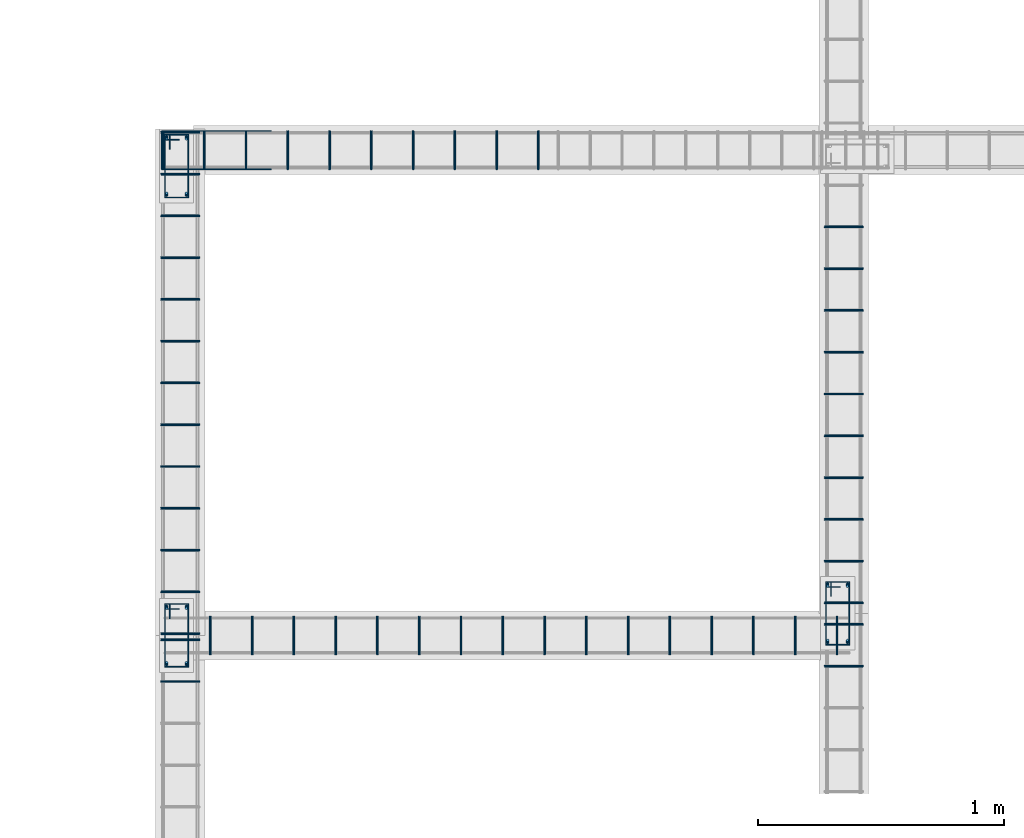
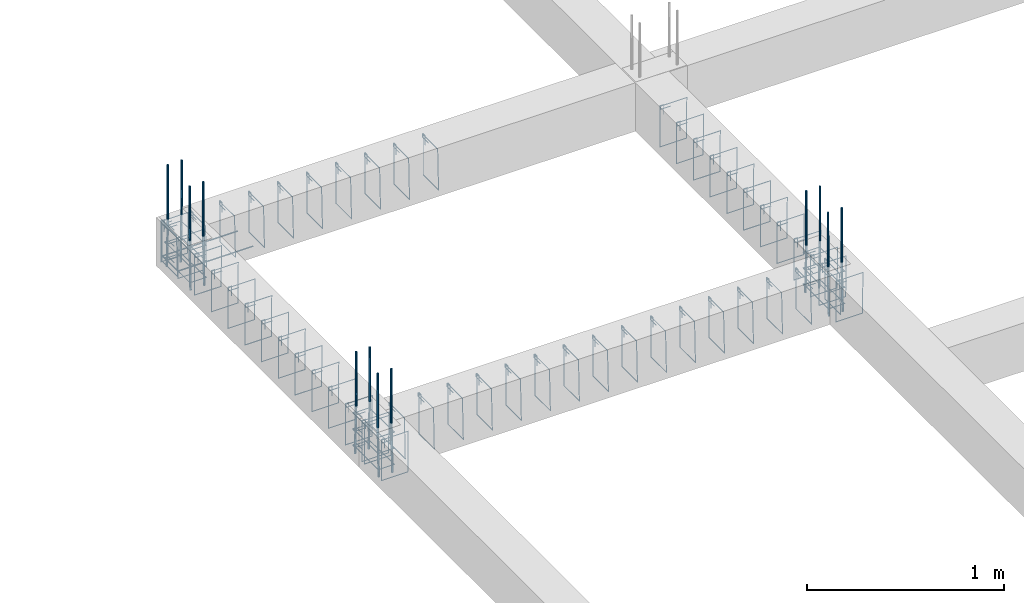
# One storey, part 48 of 150: 75 reinforcing bars.
"""IFC4 building model written with IfcOpenShell, lengths in centimetres."""

import ifcopenshell
import ifcopenshell.guid

model = None  # the IFC model being written
_history = None  # IfcOwnerHistory: only IFC2X3 demands one
_inside = {}  # id of a spatial element -> (the spatial element, [elements in it])
_under = {}  # id of a project, library or spatial element -> (it, [spatial elements below it])
_declared = {}  # id of a project -> (the project, [libraries it declares])
_typed = {}  # id of a type object -> (the type object, [elements of that type])
_made_of = {}  # id of a material, layer set ... -> (it, [elements and type objects made of it])


def new_model(schema):
    """Start an empty IFC model of exactly this schema.

    Asked for "IFC4X3", IfcOpenShell would pick the latest addendum, in which some entities
    have other attributes; the version numbers below select the first issue.
    IFC2X3 requires an IfcOwnerHistory on every rooted entity: one is made here for all.
    """
    global model, _history
    if schema == "IFC4X3":
        model = ifcopenshell.file(schema_version=(4, 3, 0, 0))
    else:
        model = ifcopenshell.file(schema=schema)
    _inside.clear()
    _under.clear()
    _declared.clear()
    _typed.clear()
    _made_of.clear()
    _history = None
    if model.schema == "IFC2X3":
        org = make("IfcOrganization", Name="unknown")
        user = make(
            "IfcPersonAndOrganization",
            ThePerson=make("IfcPerson", FamilyName="unknown"),
            TheOrganization=org,
        )
        app = make(
            "IfcApplication",
            ApplicationDeveloper=org,
            Version="unknown",
            ApplicationFullName="unknown",
            ApplicationIdentifier="unknown",
        )
        _history = make(
            "IfcOwnerHistory",
            OwningUser=user,
            OwningApplication=app,
            ChangeAction="ADDED",
            CreationDate=0,
        )
    return model


def make(cls, **values):
    """One entity of the class cls with the attributes given. An attribute that is None is left unset."""
    return model.create_entity(
        cls, **{name: value for name, value in values.items() if value is not None}
    )


def entity(cls, *values):
    """Any entity or typed value of the class cls, its attributes in the order of the schema. None: left unset."""
    e = model.create_entity(cls)
    for i, value in enumerate(values):
        if value is not None:
            e[i] = value
    return e


def rooted(cls, **values):
    """An entity with a GlobalId (a new one), such as an element, a storey or a relation."""
    return make(cls, GlobalId=ifcopenshell.guid.new(), OwnerHistory=_history, **values)


def si_unit(unit_type, name, prefix=None):
    """IfcSIUnit, for example si_unit("LENGTHUNIT", "METRE", prefix="MILLI")."""
    return make("IfcSIUnit", UnitType=unit_type, Prefix=prefix, Name=name)


def derived_unit(unit_type, elements):
    """IfcDerivedUnit: a product of units, each with its exponent."""
    return make(
        "IfcDerivedUnit",
        Elements=[
            make("IfcDerivedUnitElement", Unit=unit, Exponent=power)
            for unit, power in elements
        ],
        UnitType=unit_type,
    )


def assignment(units):
    """IfcUnitAssignment: the units of a project."""
    return None if units is None else make("IfcUnitAssignment", Units=units)


def point(xyz):
    """IfcCartesianPoint."""
    return None if xyz is None else make("IfcCartesianPoint", Coordinates=xyz)


def direction(xyz):
    """IfcDirection."""
    return None if xyz is None else make("IfcDirection", DirectionRatios=xyz)


def frame(location, z_axis=None, x_axis=None):
    """IfcAxis2Placement3D, a coordinate frame: its origin and axes. An axis left out is left unset."""
    return make(
        "IfcAxis2Placement3D",
        Location=point(location),
        Axis=direction(z_axis),
        RefDirection=direction(x_axis),
    )


def origin_with_axes():
    """The frame at (0, 0, 0) with the z axis (0, 0, 1) and the x axis (1, 0, 0) written out."""
    return frame((0.0, 0.0, 0.0), z_axis=(0.0, 0.0, 1.0), x_axis=(1.0, 0.0, 0.0))


def place(relative_to, where):
    """IfcLocalPlacement: puts the frame where relative to a parent placement (None: the world)."""
    return make(
        "IfcLocalPlacement", PlacementRelTo=relative_to, RelativePlacement=where
    )


def context(
    kind, dimensions, precision=None, world=None, true_north=None, identifier=None
):
    """IfcGeometricRepresentationContext, for example the 3D "Model" context."""
    return make(
        "IfcGeometricRepresentationContext",
        ContextIdentifier=identifier,
        ContextType=kind,
        CoordinateSpaceDimension=dimensions,
        Precision=precision,
        WorldCoordinateSystem=world,
        TrueNorth=true_north,
    )


def project(units=None, contexts=None):
    """IfcProject with its units and contexts."""
    return rooted(
        "IfcProject",
        Name="project",
        RepresentationContexts=contexts,
        UnitsInContext=assignment(units),
    )


def spatial(cls, under=None, at=None, **own):
    """A site, building, storey or space (cls), placed at a placement, below another one or the project."""
    s = rooted(cls, ObjectPlacement=at, **own)
    if under is not None:
        _under.setdefault(under.id(), (under, []))[1].append(s)
    return s


def shape(context_of_items, identifier, shape_type, items):
    """IfcShapeRepresentation: the items that make up one representation, for example the "Body"."""
    return make(
        "IfcShapeRepresentation",
        ContextOfItems=context_of_items,
        RepresentationIdentifier=identifier,
        RepresentationType=shape_type,
        Items=items,
    )


def source(mapping_origin, context_of_items, identifier, shape_type, items):
    """IfcRepresentationMap: a shape defined once, which mapped items show again and again."""
    return make(
        "IfcRepresentationMap",
        MappingOrigin=mapping_origin,
        MappedRepresentation=shape(context_of_items, identifier, shape_type, items),
    )


def transform(
    local_origin,
    x_axis=None,
    y_axis=None,
    z_axis=None,
    scale=None,
    scale2=None,
    scale3=None,
    uniform=True,
):
    """IfcCartesianTransformationOperator3D, or its non-uniform kind. x_axis, y_axis, z_axis: its Axis1, 2, 3."""
    if uniform:
        return make(
            "IfcCartesianTransformationOperator3D",
            Axis1=direction(x_axis),
            Axis2=direction(y_axis),
            LocalOrigin=point(local_origin),
            Scale=scale,
            Axis3=direction(z_axis),
        )
    return make(
        "IfcCartesianTransformationOperator3DnonUniform",
        Axis1=direction(x_axis),
        Axis2=direction(y_axis),
        LocalOrigin=point(local_origin),
        Scale=scale,
        Axis3=direction(z_axis),
        Scale2=scale2,
        Scale3=scale3,
    )


def mapped(mapping_source, mapping_target):
    """IfcMappedItem: shows the shape of a source again, moved by a transform."""
    return make(
        "IfcMappedItem", MappingSource=mapping_source, MappingTarget=mapping_target
    )


def made_of(thing, what):
    """Note that an element or type object is made of a material, layer set ...; save() writes the relation."""
    if what is not None:
        _made_of.setdefault(what.id(), (what, []))[1].append(thing)
    return thing


def element(
    cls,
    number,
    at=None,
    inside=None,
    cuts=None,
    type_object=None,
    material=None,
    context=None,
    identifier="Body",
    shape_type=None,
    held_by="IfcProductDefinitionShape",
    body=None,
    shapes=None,
    **own,
):
    """One element of the class cls, such as IfcWall. Its Tag is "e" and its number.

    at: its placement. inside: the storey or other place that contains it. cuts: it is an
    opening in that element (IfcRelVoidsElement). A single representation is given by context,
    identifier, shape_type and body (its items); several are given by shapes. held_by: the class
    of the entity that holds the representations. save() writes the other relations.
    """
    e = rooted(cls, Tag="e%d" % number, ObjectPlacement=at, **own)
    if body is not None:
        shapes = [shape(context, identifier, shape_type, body)]
    if shapes is not None:
        e.Representation = make(held_by, Representations=shapes)
    if inside is not None:
        _inside.setdefault(inside.id(), (inside, []))[1].append(e)
    if cuts is not None:
        rooted(
            "IfcRelVoidsElement", RelatingBuildingElement=cuts, RelatedOpeningElement=e
        )
    if type_object is not None:
        _typed.setdefault(type_object.id(), (type_object, []))[1].append(e)
    return made_of(e, material)


def aggregate(whole, parts):
    """IfcRelAggregates: a whole, such as a stair, and the parts it consists of."""
    return rooted("IfcRelAggregates", RelatingObject=whole, RelatedObjects=parts)


def save(model, path):
    """Write the relations noted so far, then the file.

    IfcRelAggregates (storeys below a building ...), IfcRelContainedInSpatialStructure (elements
    in a storey), IfcRelDefinesByType, IfcRelAssociatesMaterial and IfcRelDeclares: one each for
    every whole, place, type object, material and project.
    """
    for whole, parts in _under.values():
        aggregate(whole, parts)
    for where, things in _inside.values():
        rooted(
            "IfcRelContainedInSpatialStructure",
            RelatedElements=things,
            RelatingStructure=where,
        )
    for kind, things in _typed.values():
        rooted("IfcRelDefinesByType", RelatedObjects=things, RelatingType=kind)
    for what, things in _made_of.values():
        rooted("IfcRelAssociatesMaterial", RelatedObjects=things, RelatingMaterial=what)
    for by, libraries in _declared.values():
        rooted("IfcRelDeclares", RelatingContext=by, RelatedDefinitions=libraries)
    model.write(path)


model = new_model("IFC4")

# Units and contexts
model_context = context("Model", 3, precision=1e-05, world=origin_with_axes(), identifier="Body")
ifc_project = project(units=[si_unit("LENGTHUNIT", "METRE", prefix="CENTI"), si_unit("VOLUMEUNIT", "CUBIC_METRE"), si_unit("AREAUNIT", "SQUARE_METRE"), si_unit("POWERUNIT", "WATT"), si_unit("LUMINOUSFLUXUNIT", "LUMEN"), si_unit("ELECTRICCURRENTUNIT", "AMPERE"), si_unit("PRESSUREUNIT", "PASCAL", prefix="KILO"), si_unit("MASSUNIT", "GRAM", prefix="KILO"), si_unit("PLANEANGLEUNIT", "RADIAN"), derived_unit("VOLUMETRICFLOWRATEUNIT", [(si_unit("LENGTHUNIT", "METRE"), 3), (si_unit("TIMEUNIT", "SECOND"), -1)])], contexts=[model_context])

# Site, building, storey
site_placement = place(None, frame((-4000.0, 0.0, 0.0), z_axis=(0.0, 0.0, 1.0), x_axis=(1.0, 0.0, 0.0)))
site = spatial("IfcSite", under=ifc_project, at=site_placement, Name="PADRÃO")
building_placement = place(site_placement, frame((0.0, 0.0, -14.0)))
building = spatial("IfcBuilding", under=site, at=building_placement, Name="CRECHE PRÉ-ESCOLA TIPO 2")
placement = place(building_placement, origin_with_axes())
storey_placement = place(placement, frame((0.0, 0.0, 30.0), z_axis=(0.0, 0.0, 1.0), x_axis=(1.0, 0.0, 0.0)))
storey = spatial("IfcBuildingStorey", under=building, at=storey_placement, Name="VIGA BALDRAME", CompositionType="ELEMENT", Elevation=16.0)

# Reinforcing bars
shared_shape_1 = source(origin_with_axes(), model_context, "Body", "AdvancedSweptSolid", [
    entity("IfcSweptDiskSolid", entity("IfcCompositeCurve", [entity("IfcCompositeCurveSegment", "CONTINUOUS", True, entity("IfcPolyline", [entity("IfcCartesianPoint", [4.25, 21.75, 0.0]), entity("IfcCartesianPoint", [4.25, 27.75, 0.0])])), entity("IfcCompositeCurveSegment", "CONTINUOUS", True, entity("IfcPolyline", [entity("IfcCartesianPoint", [4.25, 27.75, 0.0]), entity("IfcCartesianPoint", [2.25, 27.75, 0.0])])), entity("IfcCompositeCurveSegment", "CONTINUOUS", True, entity("IfcPolyline", [entity("IfcCartesianPoint", [2.25, 27.75, 0.0]), entity("IfcCartesianPoint", [2.25, 2.25, 0.0])])), entity("IfcCompositeCurveSegment", "CONTINUOUS", True, entity("IfcPolyline", [entity("IfcCartesianPoint", [2.25, 2.25, 0.0]), entity("IfcCartesianPoint", [11.75, 2.25, 0.0])])), entity("IfcCompositeCurveSegment", "CONTINUOUS", True, entity("IfcPolyline", [entity("IfcCartesianPoint", [11.75, 2.25, 0.0]), entity("IfcCartesianPoint", [11.75, 27.75, -0.5])])), entity("IfcCompositeCurveSegment", "CONTINUOUS", True, entity("IfcPolyline", [entity("IfcCartesianPoint", [11.75, 27.75, -0.5]), entity("IfcCartesianPoint", [2.25, 27.75, -0.5])])), entity("IfcCompositeCurveSegment", "CONTINUOUS", True, entity("IfcPolyline", [entity("IfcCartesianPoint", [2.25, 27.75, -0.5]), entity("IfcCartesianPoint", [2.25, 25.75, -0.5])])), entity("IfcCompositeCurveSegment", "CONTINUOUS", True, entity("IfcPolyline", [entity("IfcCartesianPoint", [2.25, 25.75, -0.5]), entity("IfcCartesianPoint", [8.25, 25.75, -0.5])]))], False), 0.25),
])
for number, where, z_axis, x_axis, name in (
    (1, (2247.49, 1008.51, -15.0), (0.0, 0.0, 1.0), (1.0, 0.0, 0.0), "P121 - Estribo"),
    (2, (2247.49, 1008.51, -5.0), (0.0, 0.0, 1.0), (1.0, 0.0, 0.0), "P121 - Estribo"),
    (3, (2247.49, 1008.51, -25.0), (0.0, 0.0, 1.0), (1.0, 0.0, 0.0), "P121 - Estribo"),
):
    element("IfcReinforcingBar", number, at=place(storey_placement, frame(where, z_axis=z_axis, x_axis=x_axis)), inside=storey, Name=name, BarLength=0.0, CrossSectionArea=1.9634954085e-05, NominalDiameter=0.5, PredefinedType="MAIN", context=model_context, shape_type="MappedRepresentation", body=[
        mapped(shared_shape_1, transform((0.0, 0.0, 0.0), scale=1.0)),
    ])
shared_shape_2 = source(origin_with_axes(), model_context, "Body", "AdvancedSweptSolid", [
    entity("IfcSweptDiskSolid", entity("IfcCompositeCurve", [entity("IfcCompositeCurveSegment", "CONTINUOUS", True, entity("IfcPolyline", [entity("IfcCartesianPoint", [4.25, 21.75, 0.0]), entity("IfcCartesianPoint", [4.25, 27.75, 0.0])])), entity("IfcCompositeCurveSegment", "CONTINUOUS", True, entity("IfcPolyline", [entity("IfcCartesianPoint", [4.25, 27.75, 0.0]), entity("IfcCartesianPoint", [2.25, 27.75, 0.0])])), entity("IfcCompositeCurveSegment", "CONTINUOUS", True, entity("IfcPolyline", [entity("IfcCartesianPoint", [2.25, 27.75, 0.0]), entity("IfcCartesianPoint", [2.25, 2.25, 0.0])])), entity("IfcCompositeCurveSegment", "CONTINUOUS", True, entity("IfcPolyline", [entity("IfcCartesianPoint", [2.25, 2.25, 0.0]), entity("IfcCartesianPoint", [11.75, 2.25, 0.0])])), entity("IfcCompositeCurveSegment", "CONTINUOUS", True, entity("IfcPolyline", [entity("IfcCartesianPoint", [11.75, 2.25, 0.0]), entity("IfcCartesianPoint", [11.75, 27.75, -0.5])])), entity("IfcCompositeCurveSegment", "CONTINUOUS", True, entity("IfcPolyline", [entity("IfcCartesianPoint", [11.75, 27.75, -0.5]), entity("IfcCartesianPoint", [2.25, 27.75, -0.5])])), entity("IfcCompositeCurveSegment", "CONTINUOUS", True, entity("IfcPolyline", [entity("IfcCartesianPoint", [2.25, 27.75, -0.5]), entity("IfcCartesianPoint", [2.25, 25.75, -0.5])])), entity("IfcCompositeCurveSegment", "CONTINUOUS", True, entity("IfcPolyline", [entity("IfcCartesianPoint", [2.25, 25.75, -0.5]), entity("IfcCartesianPoint", [8.25, 25.75, -0.5])]))], False), 0.25),
])
for number, where, z_axis, x_axis, name in (
    (4, (2516.5, 826.52, -5.0), (0.0, 0.0, 1.0), (1.0, 0.0, 0.0), "P129 - Estribo"),
    (5, (2516.5, 826.52, -15.0), (0.0, 0.0, 1.0), (1.0, 0.0, 0.0), "P129 - Estribo"),
    (6, (2516.5, 826.52, -25.0), (0.0, 0.0, 1.0), (1.0, 0.0, 0.0), "P129 - Estribo"),
):
    element("IfcReinforcingBar", number, at=place(storey_placement, frame(where, z_axis=z_axis, x_axis=x_axis)), inside=storey, Name=name, BarLength=0.0, CrossSectionArea=1.9634954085e-05, NominalDiameter=0.5, PredefinedType="MAIN", context=model_context, shape_type="MappedRepresentation", body=[
        mapped(shared_shape_2, transform((0.0, 0.0, 0.0), scale=1.0)),
    ])
shared_shape_3 = source(origin_with_axes(), model_context, "Body", "AdvancedSweptSolid", [
    entity("IfcSweptDiskSolid", entity("IfcCompositeCurve", [entity("IfcCompositeCurveSegment", "CONTINUOUS", True, entity("IfcPolyline", [entity("IfcCartesianPoint", [4.25, 21.75, 0.0]), entity("IfcCartesianPoint", [4.25, 27.75, 0.0])])), entity("IfcCompositeCurveSegment", "CONTINUOUS", True, entity("IfcPolyline", [entity("IfcCartesianPoint", [4.25, 27.75, 0.0]), entity("IfcCartesianPoint", [2.25, 27.75, 0.0])])), entity("IfcCompositeCurveSegment", "CONTINUOUS", True, entity("IfcPolyline", [entity("IfcCartesianPoint", [2.25, 27.75, 0.0]), entity("IfcCartesianPoint", [2.25, 2.25, 0.0])])), entity("IfcCompositeCurveSegment", "CONTINUOUS", True, entity("IfcPolyline", [entity("IfcCartesianPoint", [2.25, 2.25, 0.0]), entity("IfcCartesianPoint", [11.75, 2.25, 0.0])])), entity("IfcCompositeCurveSegment", "CONTINUOUS", True, entity("IfcPolyline", [entity("IfcCartesianPoint", [11.75, 2.25, 0.0]), entity("IfcCartesianPoint", [11.75, 27.75, -0.5])])), entity("IfcCompositeCurveSegment", "CONTINUOUS", True, entity("IfcPolyline", [entity("IfcCartesianPoint", [11.75, 27.75, -0.5]), entity("IfcCartesianPoint", [2.25, 27.75, -0.5])])), entity("IfcCompositeCurveSegment", "CONTINUOUS", True, entity("IfcPolyline", [entity("IfcCartesianPoint", [2.25, 27.75, -0.5]), entity("IfcCartesianPoint", [2.25, 25.75, -0.5])])), entity("IfcCompositeCurveSegment", "CONTINUOUS", True, entity("IfcPolyline", [entity("IfcCartesianPoint", [2.25, 25.75, -0.5]), entity("IfcCartesianPoint", [8.25, 25.75, -0.5])]))], False), 0.25),
])
for number, where, z_axis, x_axis, name in (
    (7, (2247.49, 817.52, -5.0), (0.0, 0.0, 1.0), (1.0, 0.0, 0.0), "P128 - Estribo"),
    (8, (2247.49, 817.52, -15.0), (0.0, 0.0, 1.0), (1.0, 0.0, 0.0), "P128 - Estribo"),
    (9, (2247.49, 817.52, -25.0), (0.0, 0.0, 1.0), (1.0, 0.0, 0.0), "P128 - Estribo"),
):
    element("IfcReinforcingBar", number, at=place(storey_placement, frame(where, z_axis=z_axis, x_axis=x_axis)), inside=storey, Name=name, BarLength=0.0, CrossSectionArea=1.9634954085e-05, NominalDiameter=0.5, PredefinedType="MAIN", context=model_context, shape_type="MappedRepresentation", body=[
        mapped(shared_shape_3, transform((0.0, 0.0, 0.0), scale=1.0)),
    ])
shared_shape_4 = source(origin_with_axes(), model_context, "Body", "AdvancedSweptSolid", [
    entity("IfcSweptDiskSolid", entity("IfcCompositeCurve", [entity("IfcCompositeCurveSegment", "CONTINUOUS", True, entity("IfcPolyline", [entity("IfcCartesianPoint", [2.0, -6.0, 0.0]), entity("IfcCartesianPoint", [2.0, 0.0, 0.0])])), entity("IfcCompositeCurveSegment", "CONTINUOUS", True, entity("IfcPolyline", [entity("IfcCartesianPoint", [2.0, 0.0, 0.0]), entity("IfcCartesianPoint", [0.0, 0.0, 0.0])])), entity("IfcCompositeCurveSegment", "CONTINUOUS", True, entity("IfcPolyline", [entity("IfcCartesianPoint", [0.0, 0.0, 0.0]), entity("IfcCartesianPoint", [0.0, -25.5, 0.0])])), entity("IfcCompositeCurveSegment", "CONTINUOUS", True, entity("IfcPolyline", [entity("IfcCartesianPoint", [0.0, -25.5, 0.0]), entity("IfcCartesianPoint", [15.5, -25.5, 0.0])])), entity("IfcCompositeCurveSegment", "CONTINUOUS", True, entity("IfcPolyline", [entity("IfcCartesianPoint", [15.5, -25.5, 0.0]), entity("IfcCartesianPoint", [15.5, 0.0, 0.5])])), entity("IfcCompositeCurveSegment", "CONTINUOUS", True, entity("IfcPolyline", [entity("IfcCartesianPoint", [15.5, 0.0, 0.5]), entity("IfcCartesianPoint", [0.0, 0.0, 0.5])])), entity("IfcCompositeCurveSegment", "CONTINUOUS", True, entity("IfcPolyline", [entity("IfcCartesianPoint", [0.0, 0.0, 0.5]), entity("IfcCartesianPoint", [0.0, -2.0, 0.5])])), entity("IfcCompositeCurveSegment", "CONTINUOUS", True, entity("IfcPolyline", [entity("IfcCartesianPoint", [0.0, -2.0, 0.5]), entity("IfcCartesianPoint", [6.0, -2.0, 0.5])]))], False), 0.25),
])
for number, where, z_axis, x_axis, name in (
    (10, (2518.25, 820.27, -2.25), (0.0, -1.0, 0.0), (1.0, 0.0, 0.0), "V196 - Estribo"),
    (11, (2518.25, 837.27, -2.25), (0.0, -1.0, 0.0), (1.0, 0.0, 0.0), "V196 - Estribo"),
):
    element("IfcReinforcingBar", number, at=place(storey_placement, frame(where, z_axis=z_axis, x_axis=x_axis)), inside=storey, Name=name, BarLength=0.0, CrossSectionArea=1.9634954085e-05, NominalDiameter=0.5, PredefinedType="MAIN", context=model_context, shape_type="MappedRepresentation", body=[
        mapped(shared_shape_4, transform((0.0, 0.0, 0.0), scale=1.0)),
    ])
shared_shape_5 = source(origin_with_axes(), model_context, "Body", "AdvancedSweptSolid", [
    entity("IfcSweptDiskSolid", entity("IfcCompositeCurve", [entity("IfcCompositeCurveSegment", "CONTINUOUS", True, entity("IfcPolyline", [entity("IfcCartesianPoint", [2.0, -6.0, 0.0]), entity("IfcCartesianPoint", [2.0, 0.0, 0.0])])), entity("IfcCompositeCurveSegment", "CONTINUOUS", True, entity("IfcPolyline", [entity("IfcCartesianPoint", [2.0, 0.0, 0.0]), entity("IfcCartesianPoint", [0.0, 0.0, 0.0])])), entity("IfcCompositeCurveSegment", "CONTINUOUS", True, entity("IfcPolyline", [entity("IfcCartesianPoint", [0.0, 0.0, 0.0]), entity("IfcCartesianPoint", [0.0, -25.5, 0.0])])), entity("IfcCompositeCurveSegment", "CONTINUOUS", True, entity("IfcPolyline", [entity("IfcCartesianPoint", [0.0, -25.5, 0.0]), entity("IfcCartesianPoint", [15.5, -25.5, 0.0])])), entity("IfcCompositeCurveSegment", "CONTINUOUS", True, entity("IfcPolyline", [entity("IfcCartesianPoint", [15.5, -25.5, 0.0]), entity("IfcCartesianPoint", [15.5, 0.0, 0.5])])), entity("IfcCompositeCurveSegment", "CONTINUOUS", True, entity("IfcPolyline", [entity("IfcCartesianPoint", [15.5, 0.0, 0.5]), entity("IfcCartesianPoint", [0.0, 0.0, 0.5])])), entity("IfcCompositeCurveSegment", "CONTINUOUS", True, entity("IfcPolyline", [entity("IfcCartesianPoint", [0.0, 0.0, 0.5]), entity("IfcCartesianPoint", [0.0, -2.0, 0.5])])), entity("IfcCompositeCurveSegment", "CONTINUOUS", True, entity("IfcPolyline", [entity("IfcCartesianPoint", [0.0, -2.0, 0.5]), entity("IfcCartesianPoint", [6.0, -2.0, 0.5])]))], False), 0.25),
])
for number, where, z_axis, x_axis, name in (
    (12, (2518.25, 846.02, -2.25), (0.0, -1.0, 0.0), (1.0, 0.0, 0.0), "V196 - Estribo"),
    (13, (2518.25, 863.02, -2.25), (0.0, -1.0, 0.0), (1.0, 0.0, 0.0), "V196 - Estribo"),
    (14, (2518.25, 880.02, -2.25), (0.0, -1.0, 0.0), (1.0, 0.0, 0.0), "V196 - Estribo"),
    (15, (2518.25, 897.02, -2.25), (0.0, -1.0, 0.0), (1.0, 0.0, 0.0), "V196 - Estribo"),
    (16, (2518.25, 914.02, -2.25), (0.0, -1.0, 0.0), (1.0, 0.0, 0.0), "V196 - Estribo"),
    (17, (2518.25, 931.02, -2.25), (0.0, -1.0, 0.0), (1.0, 0.0, 0.0), "V196 - Estribo"),
    (18, (2518.25, 948.02, -2.25), (0.0, -1.0, 0.0), (1.0, 0.0, 0.0), "V196 - Estribo"),
    (19, (2518.25, 999.02, -2.25), (0.0, -1.0, 0.0), (1.0, 0.0, 0.0), "V196 - Estribo"),
    (20, (2518.25, 982.02, -2.25), (0.0, -1.0, 0.0), (1.0, 0.0, 0.0), "V196 - Estribo"),
    (21, (2518.25, 965.02, -2.25), (0.0, -1.0, 0.0), (1.0, 0.0, 0.0), "V196 - Estribo"),
):
    element("IfcReinforcingBar", number, at=place(storey_placement, frame(where, z_axis=z_axis, x_axis=x_axis)), inside=storey, Name=name, BarLength=0.0, CrossSectionArea=1.9634954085e-05, NominalDiameter=0.5, PredefinedType="MAIN", context=model_context, shape_type="MappedRepresentation", body=[
        mapped(shared_shape_5, transform((0.0, 0.0, 0.0), scale=1.0)),
    ])
shared_shape_6 = source(origin_with_axes(), model_context, "Body", "AdvancedSweptSolid", [
    entity("IfcSweptDiskSolid", entity("IfcCompositeCurve", [entity("IfcCompositeCurveSegment", "CONTINUOUS", True, entity("IfcPolyline", [entity("IfcCartesianPoint", [2.0, -6.0, 0.0]), entity("IfcCartesianPoint", [2.0, 0.0, 0.0])])), entity("IfcCompositeCurveSegment", "CONTINUOUS", True, entity("IfcPolyline", [entity("IfcCartesianPoint", [2.0, 0.0, 0.0]), entity("IfcCartesianPoint", [0.0, 0.0, 0.0])])), entity("IfcCompositeCurveSegment", "CONTINUOUS", True, entity("IfcPolyline", [entity("IfcCartesianPoint", [0.0, 0.0, 0.0]), entity("IfcCartesianPoint", [0.0, -25.5, 0.0])])), entity("IfcCompositeCurveSegment", "CONTINUOUS", True, entity("IfcPolyline", [entity("IfcCartesianPoint", [0.0, -25.5, 0.0]), entity("IfcCartesianPoint", [15.5, -25.5, 0.0])])), entity("IfcCompositeCurveSegment", "CONTINUOUS", True, entity("IfcPolyline", [entity("IfcCartesianPoint", [15.5, -25.5, 0.0]), entity("IfcCartesianPoint", [15.5, 0.0, 0.5])])), entity("IfcCompositeCurveSegment", "CONTINUOUS", True, entity("IfcPolyline", [entity("IfcCartesianPoint", [15.5, 0.0, 0.5]), entity("IfcCartesianPoint", [0.0, 0.0, 0.5])])), entity("IfcCompositeCurveSegment", "CONTINUOUS", True, entity("IfcPolyline", [entity("IfcCartesianPoint", [0.0, 0.0, 0.5]), entity("IfcCartesianPoint", [0.0, -2.0, 0.5])])), entity("IfcCompositeCurveSegment", "CONTINUOUS", True, entity("IfcPolyline", [entity("IfcCartesianPoint", [0.0, -2.0, 0.5]), entity("IfcCartesianPoint", [6.0, -2.0, 0.5])]))], False), 0.25),
])
for number, where, z_axis, x_axis, name in (
    (22, (2489.495, 840.27, -2.25), (-1.0, 0.0, 0.0), (0.0, -1.0, 0.0), "V146 - Estribo"),
    (23, (2472.495, 840.27, -2.25), (-1.0, 0.0, 0.0), (0.0, -1.0, 0.0), "V146 - Estribo"),
    (24, (2455.495, 840.27, -2.25), (-1.0, 0.0, 0.0), (0.0, -1.0, 0.0), "V146 - Estribo"),
    (25, (2438.495, 840.27, -2.25), (-1.0, 0.0, 0.0), (0.0, -1.0, 0.0), "V146 - Estribo"),
    (26, (2353.495, 840.27, -2.25), (-1.0, 0.0, 0.0), (0.0, -1.0, 0.0), "V146 - Estribo"),
    (27, (2268.495, 840.27, -2.25), (-1.0, 0.0, 0.0), (0.0, -1.0, 0.0), "V146 - Estribo"),
    (28, (2285.495, 840.27, -2.25), (-1.0, 0.0, 0.0), (0.0, -1.0, 0.0), "V146 - Estribo"),
    (29, (2302.495, 840.27, -2.25), (-1.0, 0.0, 0.0), (0.0, -1.0, 0.0), "V146 - Estribo"),
    (30, (2319.495, 840.27, -2.25), (-1.0, 0.0, 0.0), (0.0, -1.0, 0.0), "V146 - Estribo"),
    (31, (2387.495, 840.27, -2.25), (-1.0, 0.0, 0.0), (0.0, -1.0, 0.0), "V146 - Estribo"),
    (32, (2370.495, 840.27, -2.25), (-1.0, 0.0, 0.0), (0.0, -1.0, 0.0), "V146 - Estribo"),
    (33, (2336.495, 840.27, -2.25), (-1.0, 0.0, 0.0), (0.0, -1.0, 0.0), "V146 - Estribo"),
    (34, (2523.495, 840.27, -2.25), (-1.0, 0.0, 0.0), (0.0, -1.0, 0.0), "V146 - Estribo"),
    (35, (2421.495, 840.27, -2.25), (-1.0, 0.0, 0.0), (0.0, -1.0, 0.0), "V146 - Estribo"),
    (36, (2404.495, 840.27, -2.25), (-1.0, 0.0, 0.0), (0.0, -1.0, 0.0), "V146 - Estribo"),
    (37, (2506.495, 840.27, -2.25), (-1.0, 0.0, 0.0), (0.0, -1.0, 0.0), "V146 - Estribo"),
):
    element("IfcReinforcingBar", number, at=place(storey_placement, frame(where, z_axis=z_axis, x_axis=x_axis)), inside=storey, Name=name, BarLength=0.0, CrossSectionArea=1.9634954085e-05, NominalDiameter=0.5, PredefinedType="MAIN", context=model_context, shape_type="MappedRepresentation", body=[
        mapped(shared_shape_6, transform((0.0, 0.0, 0.0), scale=1.0)),
    ])
shared_shape_7 = source(origin_with_axes(), model_context, "Body", "AdvancedSweptSolid", [
    entity("IfcSweptDiskSolid", entity("IfcCompositeCurve", [entity("IfcCompositeCurveSegment", "CONTINUOUS", True, entity("IfcPolyline", [entity("IfcCartesianPoint", [2.0, -6.0, 0.0]), entity("IfcCartesianPoint", [2.0, 0.0, 0.0])])), entity("IfcCompositeCurveSegment", "CONTINUOUS", True, entity("IfcPolyline", [entity("IfcCartesianPoint", [2.0, 0.0, 0.0]), entity("IfcCartesianPoint", [0.0, 0.0, 0.0])])), entity("IfcCompositeCurveSegment", "CONTINUOUS", True, entity("IfcPolyline", [entity("IfcCartesianPoint", [0.0, 0.0, 0.0]), entity("IfcCartesianPoint", [0.0, -25.5, 0.0])])), entity("IfcCompositeCurveSegment", "CONTINUOUS", True, entity("IfcPolyline", [entity("IfcCartesianPoint", [0.0, -25.5, 0.0]), entity("IfcCartesianPoint", [15.5, -25.5, 0.0])])), entity("IfcCompositeCurveSegment", "CONTINUOUS", True, entity("IfcPolyline", [entity("IfcCartesianPoint", [15.5, -25.5, 0.0]), entity("IfcCartesianPoint", [15.5, 0.0, 0.5])])), entity("IfcCompositeCurveSegment", "CONTINUOUS", True, entity("IfcPolyline", [entity("IfcCartesianPoint", [15.5, 0.0, 0.5]), entity("IfcCartesianPoint", [0.0, 0.0, 0.5])])), entity("IfcCompositeCurveSegment", "CONTINUOUS", True, entity("IfcPolyline", [entity("IfcCartesianPoint", [0.0, 0.0, 0.5]), entity("IfcCartesianPoint", [0.0, -2.0, 0.5])])), entity("IfcCompositeCurveSegment", "CONTINUOUS", True, entity("IfcPolyline", [entity("IfcCartesianPoint", [0.0, -2.0, 0.5]), entity("IfcCartesianPoint", [6.0, -2.0, 0.5])]))], False), 0.25),
])
for number, where, z_axis, x_axis, name in (
    (38, (2248.23988215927, 814.020260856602, -2.25), (-3.367003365e-05, -1.0, 0.0), (1.0, -3.367003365e-05, 0.0), "V190 - Estribo"),
    (39, (2248.24045454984, 831.020260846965, -2.25), (-3.367003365e-05, -1.0, 0.0), (1.0, -3.367003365e-05, 0.0), "V190 - Estribo"),
):
    element("IfcReinforcingBar", number, at=place(storey_placement, frame(where, z_axis=z_axis, x_axis=x_axis)), inside=storey, Name=name, BarLength=0.0, CrossSectionArea=1.9634954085e-05, NominalDiameter=0.5, PredefinedType="MAIN", context=model_context, shape_type="MappedRepresentation", body=[
        mapped(shared_shape_7, transform((0.0, 0.0, 0.0), scale=1.0)),
    ])
shared_shape_8 = source(origin_with_axes(), model_context, "Body", "AdvancedSweptSolid", [
    entity("IfcSweptDiskSolid", entity("IfcCompositeCurve", [entity("IfcCompositeCurveSegment", "CONTINUOUS", True, entity("IfcPolyline", [entity("IfcCartesianPoint", [2.0, -6.0, 0.0]), entity("IfcCartesianPoint", [2.0, 0.0, 0.0])])), entity("IfcCompositeCurveSegment", "CONTINUOUS", True, entity("IfcPolyline", [entity("IfcCartesianPoint", [2.0, 0.0, 0.0]), entity("IfcCartesianPoint", [0.0, 0.0, 0.0])])), entity("IfcCompositeCurveSegment", "CONTINUOUS", True, entity("IfcPolyline", [entity("IfcCartesianPoint", [0.0, 0.0, 0.0]), entity("IfcCartesianPoint", [0.0, -25.5, 0.0])])), entity("IfcCompositeCurveSegment", "CONTINUOUS", True, entity("IfcPolyline", [entity("IfcCartesianPoint", [0.0, -25.5, 0.0]), entity("IfcCartesianPoint", [15.5, -25.5, 0.0])])), entity("IfcCompositeCurveSegment", "CONTINUOUS", True, entity("IfcPolyline", [entity("IfcCartesianPoint", [15.5, -25.5, 0.0]), entity("IfcCartesianPoint", [15.5, 0.0, 0.5])])), entity("IfcCompositeCurveSegment", "CONTINUOUS", True, entity("IfcPolyline", [entity("IfcCartesianPoint", [15.5, 0.0, 0.5]), entity("IfcCartesianPoint", [0.0, 0.0, 0.5])])), entity("IfcCompositeCurveSegment", "CONTINUOUS", True, entity("IfcPolyline", [entity("IfcCartesianPoint", [0.0, 0.0, 0.5]), entity("IfcCartesianPoint", [0.0, -2.0, 0.5])])), entity("IfcCompositeCurveSegment", "CONTINUOUS", True, entity("IfcPolyline", [entity("IfcCartesianPoint", [0.0, -2.0, 0.5]), entity("IfcCartesianPoint", [6.0, -2.0, 0.5])]))], False), 0.25),
])
for number, where, z_axis, x_axis, name in (
    (40, (2248.24, 833.515, -2.25), (0.0, -1.0, 0.0), (1.0, 0.0, 0.0), "V190 - Estribo"),
    (41, (2248.24, 850.515, -2.25), (0.0, -1.0, 0.0), (1.0, 0.0, 0.0), "V190 - Estribo"),
    (42, (2248.24, 867.515, -2.25), (0.0, -1.0, 0.0), (1.0, 0.0, 0.0), "V190 - Estribo"),
    (43, (2248.24, 884.515, -2.25), (0.0, -1.0, 0.0), (1.0, 0.0, 0.0), "V190 - Estribo"),
    (44, (2248.24, 901.515, -2.25), (0.0, -1.0, 0.0), (1.0, 0.0, 0.0), "V190 - Estribo"),
    (45, (2248.24, 918.515, -2.25), (0.0, -1.0, 0.0), (1.0, 0.0, 0.0), "V190 - Estribo"),
    (46, (2248.24, 935.515, -2.25), (0.0, -1.0, 0.0), (1.0, 0.0, 0.0), "V190 - Estribo"),
    (47, (2248.24, 952.515, -2.25), (0.0, -1.0, 0.0), (1.0, 0.0, 0.0), "V190 - Estribo"),
    (48, (2248.24, 969.515, -2.25), (0.0, -1.0, 0.0), (1.0, 0.0, 0.0), "V190 - Estribo"),
    (49, (2248.24, 986.515, -2.25), (0.0, -1.0, 0.0), (1.0, 0.0, 0.0), "V190 - Estribo"),
    (50, (2248.24, 1020.515, -2.25), (0.0, -1.0, 0.0), (1.0, 0.0, 0.0), "V190 - Estribo"),
    (51, (2248.24, 1037.515, -2.25), (0.0, -1.0, 0.0), (1.0, 0.0, 0.0), "V190 - Estribo"),
    (52, (2248.24, 1003.515, -2.25), (0.0, -1.0, 0.0), (1.0, 0.0, 0.0), "V190 - Estribo"),
):
    element("IfcReinforcingBar", number, at=place(storey_placement, frame(where, z_axis=z_axis, x_axis=x_axis)), inside=storey, Name=name, BarLength=0.0, CrossSectionArea=1.9634954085e-05, NominalDiameter=0.5, PredefinedType="MAIN", context=model_context, shape_type="MappedRepresentation", body=[
        mapped(shared_shape_8, transform((0.0, 0.0, 0.0), scale=1.0)),
    ])
shared_shape_9 = source(origin_with_axes(), model_context, "Body", "AdvancedSweptSolid", [
    entity("IfcSweptDiskSolid", entity("IfcCompositeCurve", [entity("IfcCompositeCurveSegment", "CONTINUOUS", True, entity("IfcPolyline", [entity("IfcCartesianPoint", [2.0, -6.0, 0.0]), entity("IfcCartesianPoint", [2.0, 0.0, 0.0])])), entity("IfcCompositeCurveSegment", "CONTINUOUS", True, entity("IfcPolyline", [entity("IfcCartesianPoint", [2.0, 0.0, 0.0]), entity("IfcCartesianPoint", [0.0, 0.0, 0.0])])), entity("IfcCompositeCurveSegment", "CONTINUOUS", True, entity("IfcPolyline", [entity("IfcCartesianPoint", [0.0, 0.0, 0.0]), entity("IfcCartesianPoint", [0.0, -25.5, 0.0])])), entity("IfcCompositeCurveSegment", "CONTINUOUS", True, entity("IfcPolyline", [entity("IfcCartesianPoint", [0.0, -25.5, 0.0]), entity("IfcCartesianPoint", [15.5, -25.5, 0.0])])), entity("IfcCompositeCurveSegment", "CONTINUOUS", True, entity("IfcPolyline", [entity("IfcCartesianPoint", [15.5, -25.5, 0.0]), entity("IfcCartesianPoint", [15.5, 0.0, 0.5])])), entity("IfcCompositeCurveSegment", "CONTINUOUS", True, entity("IfcPolyline", [entity("IfcCartesianPoint", [15.5, 0.0, 0.5]), entity("IfcCartesianPoint", [0.0, 0.0, 0.5])])), entity("IfcCompositeCurveSegment", "CONTINUOUS", True, entity("IfcPolyline", [entity("IfcCartesianPoint", [0.0, 0.0, 0.5]), entity("IfcCartesianPoint", [0.0, -2.0, 0.5])])), entity("IfcCompositeCurveSegment", "CONTINUOUS", True, entity("IfcPolyline", [entity("IfcCartesianPoint", [0.0, -2.0, 0.5]), entity("IfcCartesianPoint", [6.0, -2.0, 0.5])]))], False), 0.25),
])
for number, where, z_axis, x_axis, name in (
    (53, (2265.995, 1037.76, -2.25), (-1.0, 0.0, 0.0), (0.0, -1.0, 0.0), "V142 - Estribo"),
    (54, (2248.995, 1037.76, -2.25), (-1.0, 0.0, 0.0), (0.0, -1.0, 0.0), "V142 - Estribo"),
    (55, (2401.995, 1037.76, -2.25), (-1.0, 0.0, 0.0), (0.0, -1.0, 0.0), "V142 - Estribo"),
    (56, (2384.995, 1037.76, -2.25), (-1.0, 0.0, 0.0), (0.0, -1.0, 0.0), "V142 - Estribo"),
    (57, (2367.995, 1037.76, -2.25), (-1.0, 0.0, 0.0), (0.0, -1.0, 0.0), "V142 - Estribo"),
    (58, (2350.995, 1037.76, -2.25), (-1.0, 0.0, 0.0), (0.0, -1.0, 0.0), "V142 - Estribo"),
    (59, (2333.995, 1037.76, -2.25), (-1.0, 0.0, 0.0), (0.0, -1.0, 0.0), "V142 - Estribo"),
    (60, (2316.995, 1037.76, -2.25), (-1.0, 0.0, 0.0), (0.0, -1.0, 0.0), "V142 - Estribo"),
    (61, (2299.995, 1037.76, -2.25), (-1.0, 0.0, 0.0), (0.0, -1.0, 0.0), "V142 - Estribo"),
    (62, (2282.995, 1037.76, -2.25), (-1.0, 0.0, 0.0), (0.0, -1.0, 0.0), "V142 - Estribo"),
):
    element("IfcReinforcingBar", number, at=place(storey_placement, frame(where, z_axis=z_axis, x_axis=x_axis)), inside=storey, Name=name, BarLength=0.0, CrossSectionArea=1.9634954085e-05, NominalDiameter=0.5, PredefinedType="MAIN", context=model_context, shape_type="MappedRepresentation", body=[
        mapped(shared_shape_9, transform((0.0, 0.0, 0.0), scale=1.0)),
    ])
shared_shape_10 = source(origin_with_axes(), model_context, "Body", "AdvancedSweptSolid", [
    entity("IfcSweptDiskSolid", entity("IfcCompositeCurve", [entity("IfcCompositeCurveSegment", "CONTINUOUS", True, entity("IfcPolyline", [entity("IfcCartesianPoint", [0.0, 0.0, 0.0]), entity("IfcCartesianPoint", [-43.9159679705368, 0.0, 0.0])])), entity("IfcCompositeCurveSegment", "CONTINUOUS", True, entity("IfcPolyline", [entity("IfcCartesianPoint", [-43.9159679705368, 0.0, 0.0]), entity("IfcCartesianPoint", [-43.9159679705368, -15.5, 0.0])])), entity("IfcCompositeCurveSegment", "CONTINUOUS", True, entity("IfcPolyline", [entity("IfcCartesianPoint", [-43.9159679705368, -15.5, 0.0]), entity("IfcCartesianPoint", [0.0, -15.5, 0.0])]))], False), 0.25),
])
reinforcing_bar_1_placement = place(storey_placement, frame((2293.15596797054, 1037.76, -24.6), z_axis=(0.0, 0.0, 1.0), x_axis=(1.0, 0.0, 0.0)))
element("IfcReinforcingBar", 63, at=reinforcing_bar_1_placement, inside=storey, Name="V142 - Grampo", BarLength=0.0, CrossSectionArea=1.9634954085e-05, NominalDiameter=0.5, PredefinedType="MAIN", context=model_context, shape_type="MappedRepresentation", body=[
    mapped(shared_shape_10, transform((0.0, 0.0, 0.0), scale=1.0)),
])
for number, where, z_axis, x_axis, name in (
    (64, (2250.49, 1012.01013877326, 33.3573001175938), (0.0, 0.0, 1.0), (1.0, 0.0, 0.0), "P121 - Longitudinal"),
    (65, (2258.49, 1012.01013877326, 33.3573001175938), (0.0, 0.0, 1.0), (1.0, 0.0, 0.0), "P121 - Longitudinal"),
):
    element("IfcReinforcingBar", number, at=place(storey_placement, frame(where, z_axis=z_axis, x_axis=x_axis)), inside=storey, Name=name, BarLength=0.0, CrossSectionArea=7.853981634e-05, NominalDiameter=1.0, PredefinedType="MAIN", context=model_context, shape_type="AdvancedSweptSolid", body=[
        entity("IfcSweptDiskSolid", entity("IfcCompositeCurve", [entity("IfcCompositeCurveSegment", "CONTINUOUS", True, entity("IfcPolyline", [entity("IfcCartesianPoint", [0.0, -0.50013877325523, -63.3573001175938]), entity("IfcCartesianPoint", [0.0, 0.49986122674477, -33.3573001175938])])), entity("IfcCompositeCurveSegment", "CONTINUOUS", True, entity("IfcPolyline", [entity("IfcCartesianPoint", [0.0, 0.49986122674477, -33.3573001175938]), entity("IfcCartesianPoint", [0.0, 0.49986122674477, 0.0])]))], False), 0.5),
    ])
for number, where, z_axis, x_axis, name in (
    (66, (2250.49, 1035.00986122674, 33.3573001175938), (0.0, 0.0, 1.0), (1.0, 0.0, 0.0), "P121 - Longitudinal"),
    (67, (2258.49, 1035.00986122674, 33.3573001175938), (0.0, 0.0, 1.0), (1.0, 0.0, 0.0), "P121 - Longitudinal"),
    (68, (2250.49, 844.019861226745, 33.3573001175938), (0.0, 0.0, 1.0), (1.0, 0.0, 0.0), "P128 - Longitudinal"),
    (69, (2258.49, 844.019861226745, 33.3573001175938), (0.0, 0.0, 1.0), (1.0, 0.0, 0.0), "P128 - Longitudinal"),
):
    element("IfcReinforcingBar", number, at=place(storey_placement, frame(where, z_axis=z_axis, x_axis=x_axis)), inside=storey, Name=name, BarLength=0.0, CrossSectionArea=7.853981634e-05, NominalDiameter=1.0, PredefinedType="MAIN", context=model_context, shape_type="AdvancedSweptSolid", body=[
        entity("IfcSweptDiskSolid", entity("IfcCompositeCurve", [entity("IfcCompositeCurveSegment", "CONTINUOUS", True, entity("IfcPolyline", [entity("IfcCartesianPoint", [0.0, 0.50013877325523, -63.3573001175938]), entity("IfcCartesianPoint", [0.0, -0.49986122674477, -33.3573001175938])])), entity("IfcCompositeCurveSegment", "CONTINUOUS", True, entity("IfcPolyline", [entity("IfcCartesianPoint", [0.0, -0.49986122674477, -33.3573001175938]), entity("IfcCartesianPoint", [0.0, -0.49986122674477, 0.0])]))], False), 0.5),
    ])
for number, where, z_axis, x_axis, name in (
    (70, (2258.49, 821.020138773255, 33.3573001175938), (0.0, 0.0, 1.0), (1.0, 0.0, 0.0), "P128 - Longitudinal"),
    (71, (2250.49, 821.020138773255, 33.3573001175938), (0.0, 0.0, 1.0), (1.0, 0.0, 0.0), "P128 - Longitudinal"),
    (72, (2527.5, 830.020138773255, 33.3573001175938), (0.0, 0.0, 1.0), (1.0, 0.0, 0.0), "P129 - Longitudinal"),
):
    element("IfcReinforcingBar", number, at=place(storey_placement, frame(where, z_axis=z_axis, x_axis=x_axis)), inside=storey, Name=name, BarLength=0.0, CrossSectionArea=7.853981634e-05, NominalDiameter=1.0, PredefinedType="MAIN", context=model_context, shape_type="AdvancedSweptSolid", body=[
        entity("IfcSweptDiskSolid", entity("IfcCompositeCurve", [entity("IfcCompositeCurveSegment", "CONTINUOUS", True, entity("IfcPolyline", [entity("IfcCartesianPoint", [0.0, -0.50013877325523, -63.3573001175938]), entity("IfcCartesianPoint", [0.0, 0.49986122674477, -33.3573001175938])])), entity("IfcCompositeCurveSegment", "CONTINUOUS", True, entity("IfcPolyline", [entity("IfcCartesianPoint", [0.0, 0.49986122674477, -33.3573001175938]), entity("IfcCartesianPoint", [0.0, 0.49986122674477, 0.0])]))], False), 0.5),
    ])
reinforcing_bar_2_placement = place(storey_placement, frame((2527.5, 853.019861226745, 33.3573001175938), z_axis=(0.0, 0.0, 1.0), x_axis=(1.0, 0.0, 0.0)))
element("IfcReinforcingBar", 73, at=reinforcing_bar_2_placement, inside=storey, Name="P129 - Longitudinal", BarLength=0.0, CrossSectionArea=7.853981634e-05, NominalDiameter=1.0, PredefinedType="MAIN", context=model_context, shape_type="AdvancedSweptSolid", body=[
    entity("IfcSweptDiskSolid", entity("IfcCompositeCurve", [entity("IfcCompositeCurveSegment", "CONTINUOUS", True, entity("IfcPolyline", [entity("IfcCartesianPoint", [0.0, 0.50013877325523, -63.3573001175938]), entity("IfcCartesianPoint", [0.0, -0.49986122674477, -33.3573001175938])])), entity("IfcCompositeCurveSegment", "CONTINUOUS", True, entity("IfcPolyline", [entity("IfcCartesianPoint", [0.0, -0.49986122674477, -33.3573001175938]), entity("IfcCartesianPoint", [0.0, -0.49986122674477, 0.0])]))], False), 0.5),
])
reinforcing_bar_3_placement = place(storey_placement, frame((2519.5, 830.020138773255, 33.3573001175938), z_axis=(0.0, 0.0, 1.0), x_axis=(1.0, 0.0, 0.0)))
element("IfcReinforcingBar", 74, at=reinforcing_bar_3_placement, inside=storey, Name="P129 - Longitudinal", BarLength=0.0, CrossSectionArea=7.853981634e-05, NominalDiameter=1.0, PredefinedType="MAIN", context=model_context, shape_type="AdvancedSweptSolid", body=[
    entity("IfcSweptDiskSolid", entity("IfcCompositeCurve", [entity("IfcCompositeCurveSegment", "CONTINUOUS", True, entity("IfcPolyline", [entity("IfcCartesianPoint", [0.0, -0.50013877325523, -63.3573001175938]), entity("IfcCartesianPoint", [0.0, 0.49986122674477, -33.3573001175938])])), entity("IfcCompositeCurveSegment", "CONTINUOUS", True, entity("IfcPolyline", [entity("IfcCartesianPoint", [0.0, 0.49986122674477, -33.3573001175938]), entity("IfcCartesianPoint", [0.0, 0.49986122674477, 0.0])]))], False), 0.5),
])
reinforcing_bar_4_placement = place(storey_placement, frame((2519.5, 853.019861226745, 33.3573001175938), z_axis=(0.0, 0.0, 1.0), x_axis=(1.0, 0.0, 0.0)))
element("IfcReinforcingBar", 75, at=reinforcing_bar_4_placement, inside=storey, Name="P129 - Longitudinal", BarLength=0.0, CrossSectionArea=7.853981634e-05, NominalDiameter=1.0, PredefinedType="MAIN", context=model_context, shape_type="AdvancedSweptSolid", body=[
    entity("IfcSweptDiskSolid", entity("IfcCompositeCurve", [entity("IfcCompositeCurveSegment", "CONTINUOUS", True, entity("IfcPolyline", [entity("IfcCartesianPoint", [0.0, 0.50013877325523, -63.3573001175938]), entity("IfcCartesianPoint", [0.0, -0.49986122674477, -33.3573001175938])])), entity("IfcCompositeCurveSegment", "CONTINUOUS", True, entity("IfcPolyline", [entity("IfcCartesianPoint", [0.0, -0.49986122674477, -33.3573001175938]), entity("IfcCartesianPoint", [0.0, -0.49986122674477, 0.0])]))], False), 0.5),
])

save(model, "model.ifc")
